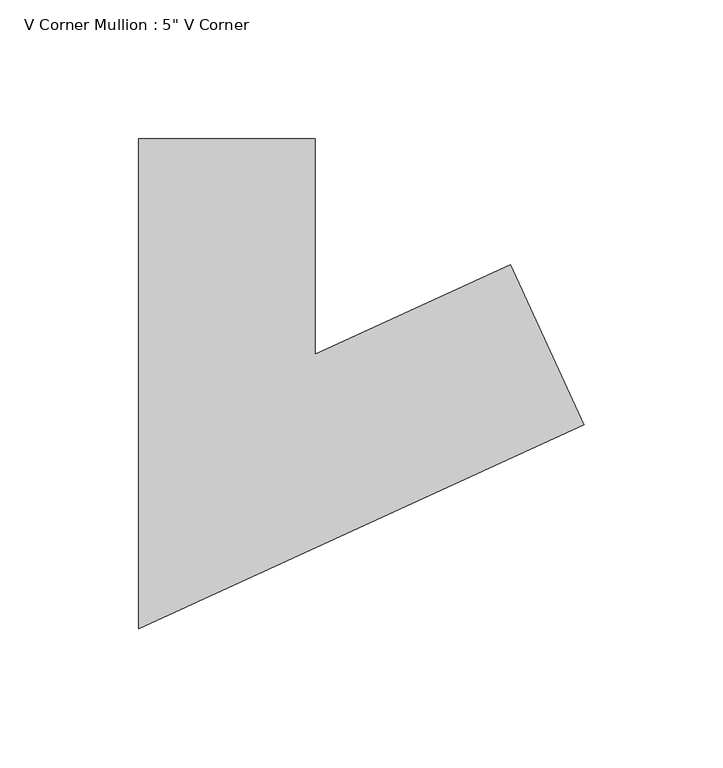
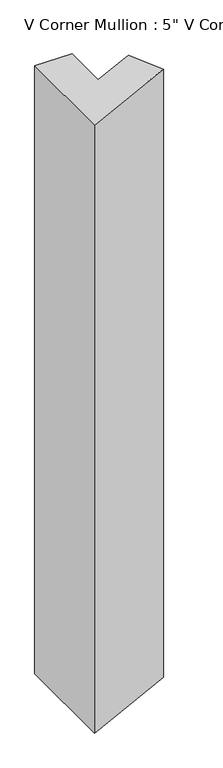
"""IFC4 building model written with IfcOpenShell, lengths in millimetres: member geometry."""

from ifc_helpers import new_model, si_unit, frame, origin, place, context, project, spatial, polyline, outline, extrude, source, transform, mapped, element, save


def member_f7ad1dcf(model_context):
    return source(origin(), model_context, "Body", "SweptSolid", [
        extrude(outline(polyline([(87.9205542, -39.5195451), (-72.5228811, -112.9476953), (-72.5228811, 63.5), (-9.0228811, 63.5), (-9.0228811, -14.0523047), (61.49523, 18.2208415), (87.9205542, -39.5195451)])), frame((0.0, 0.0, -1098.55), z_axis=(0.0, 0.0, 1.0), x_axis=(1.0, 0.0, 0.0)), (0.0, 0.0, 1.0), 1098.55),
    ])


if __name__ == "__main__":
    model = new_model("IFC4")
    model_context = context("Model", 3, world=origin())
    ifc_project = project(units=[si_unit("LENGTHUNIT", "METRE", prefix="MILLI")], contexts=[model_context])
    site = spatial("IfcSite", under=ifc_project)
    building = spatial("IfcBuilding", under=site)
    placement = place(None, origin())
    member_shape = member_f7ad1dcf(model_context)
    element("IfcMember", 1, ObjectType="V Corner Mullion : 5\" V Corner", at=placement, inside=building, context=model_context, shape_type="MappedRepresentation", body=[
        mapped(member_shape, transform((0.0, 0.0, 0.0), x_axis=(1.0, 0.0, 0.0), y_axis=(0.0, 1.0, 0.0), z_axis=(0.0, 0.0, 1.0))),
    ])
    save(model, "model.ifc")
